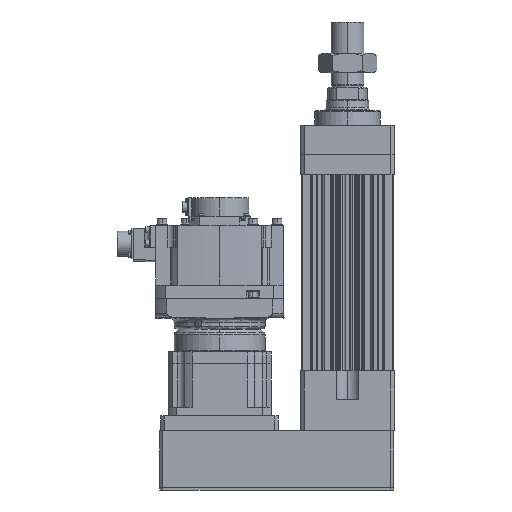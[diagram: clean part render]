
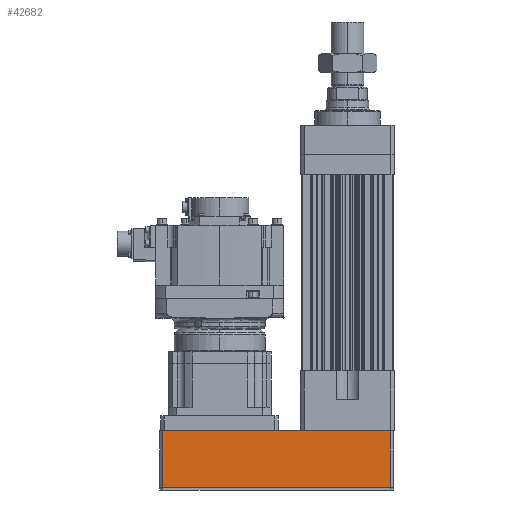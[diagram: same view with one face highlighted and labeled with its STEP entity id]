
A CAD part, left-side view. The second image highlights one B-rep face of the part: STEP entity #42682.
In plain terms, the highlighted planar face has unit normal (-1, 0, 0).
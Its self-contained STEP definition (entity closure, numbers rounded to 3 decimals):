
#1739 = ORIENTED_EDGE ( 'NONE', *, *, #25520, .T. ) ;
#3050 = CARTESIAN_POINT ( 'NONE',  ( -63.5, 254., -82.5 ) ) ;
#4180 = EDGE_CURVE ( 'NONE', #32129, #39352, #51266, .T. ) ;
#4692 = VECTOR ( 'NONE', #11645, 1000. ) ;
#5151 = PLANE ( 'NONE',  #11326 ) ;
#5853 = VECTOR ( 'NONE', #20267, 1000. ) ;
#6799 = DIRECTION ( 'NONE',  ( 0., 0., 1. ) ) ;
#8553 = ORIENTED_EDGE ( 'NONE', *, *, #4180, .F. ) ;
#9209 = CARTESIAN_POINT ( 'NONE',  ( -63.5, -59., -161. ) ) ;
#10019 = DIRECTION ( 'NONE',  ( 0., -1., 0. ) ) ;
#11172 = CARTESIAN_POINT ( 'NONE',  ( -63.5, 254., -161. ) ) ;
#11326 = AXIS2_PLACEMENT_3D ( 'NONE', #9209, #41311, #17290 ) ;
#11645 = DIRECTION ( 'NONE',  ( 0., 1., 0. ) ) ;
#11684 = CARTESIAN_POINT ( 'NONE',  ( -63.5, -59., -161. ) ) ;
#11863 = EDGE_CURVE ( 'NONE', #32129, #40559, #30732, .T. ) ;
#14107 = ORIENTED_EDGE ( 'NONE', *, *, #44257, .T. ) ;
#15562 = CARTESIAN_POINT ( 'NONE',  ( -63.5, 254., -160.5 ) ) ;
#17290 = DIRECTION ( 'NONE',  ( 0., 0., -1. ) ) ;
#19719 = CARTESIAN_POINT ( 'NONE',  ( -63.5, -59., -82.5 ) ) ;
#20267 = DIRECTION ( 'NONE',  ( 0., 0., 1. ) ) ;
#23832 = VECTOR ( 'NONE', #10019, 1000. ) ;
#25520 = EDGE_CURVE ( 'NONE', #40559, #32812, #43572, .T. ) ;
#30732 = LINE ( 'NONE', #37762, #23832 ) ;
#32129 = VERTEX_POINT ( 'NONE', #15562 ) ;
#32812 = VERTEX_POINT ( 'NONE', #19719 ) ;
#37762 = CARTESIAN_POINT ( 'NONE',  ( -63.5, -59., -160.5 ) ) ;
#39242 = LINE ( 'NONE', #43612, #4692 ) ;
#39352 = VERTEX_POINT ( 'NONE', #3050 ) ;
#40559 = VERTEX_POINT ( 'NONE', #51164 ) ;
#41311 = DIRECTION ( 'NONE',  ( 1., 0., 0. ) ) ;
#41674 = ORIENTED_EDGE ( 'NONE', *, *, #11863, .T. ) ;
#42682 = ADVANCED_FACE ( 'NONE', ( #44450 ), #5151, .F. ) ;
#43572 = LINE ( 'NONE', #11684, #5853 ) ;
#43612 = CARTESIAN_POINT ( 'NONE',  ( -63.5, 254., -82.5 ) ) ;
#44257 = EDGE_CURVE ( 'NONE', #32812, #39352, #39242, .T. ) ;
#44450 = FACE_OUTER_BOUND ( 'NONE', #49594, .T. ) ;
#47481 = VECTOR ( 'NONE', #6799, 1000. ) ;
#49594 = EDGE_LOOP ( 'NONE', ( #8553, #41674, #1739, #14107 ) ) ;
#51164 = CARTESIAN_POINT ( 'NONE',  ( -63.5, -59., -160.5 ) ) ;
#51266 = LINE ( 'NONE', #11172, #47481 ) ;
